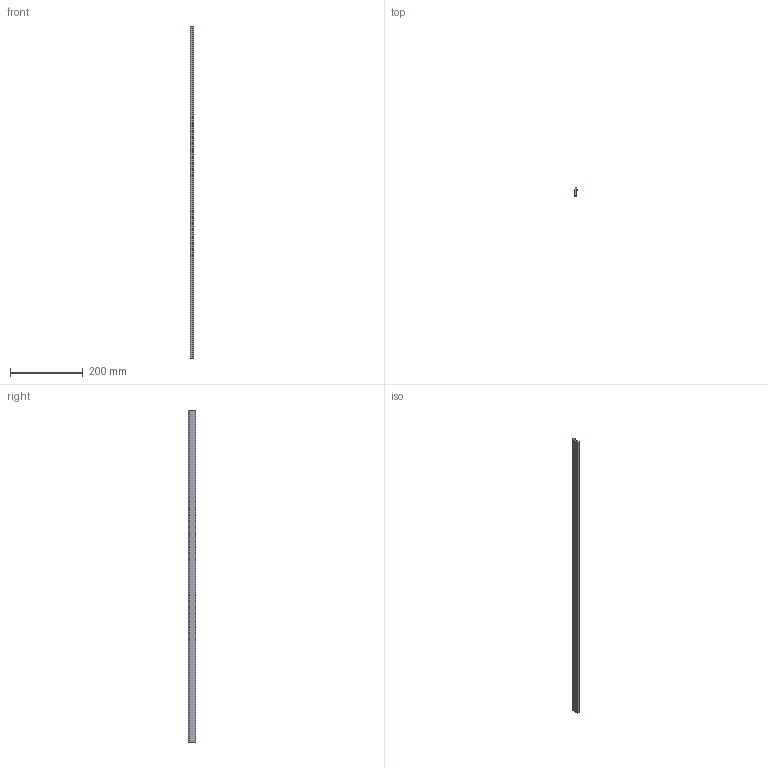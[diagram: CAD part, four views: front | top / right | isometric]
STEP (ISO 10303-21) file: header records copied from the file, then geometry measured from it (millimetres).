
FILE_DESCRIPTION( ( 'STEP AP214' ), '1' );
FILE_NAME( 'p:/temp/worker_29/temp/app_46_02019012316364124956100192d056f_000000_00_00_000000/format_0/T3-3.stp', '2019-01-23T15:36:41', ( '' ), ( '' ), ' ', 'PARTsolutions', ' ' );
FILE_SCHEMA( ( 'AUTOMOTIVE_DESIGN { 1 0 10303 214 1 1 1 1 }' ) );
Length unit declared in the file: inch
Products named in the file (1): _T3-3
Bounding box: 8.71 x 21.58 x 914.4 mm (x, y, z)
Volume: 118223.6 mm3; surface area: 52367.2 mm2
Topology: 1 solids, 1 shells, 11 faces, 27 edges, 18 vertices
Faces by surface type: plane 9, cylinder 2
Entity records: 429 total; most frequent: CARTESIAN_POINT 57, DIRECTION 55, ORIENTED_EDGE 54, EDGE_CURVE 27, LINE 23, VECTOR 23, VERTEX_POINT 18, AXIS2_PLACEMENT_3D 16
